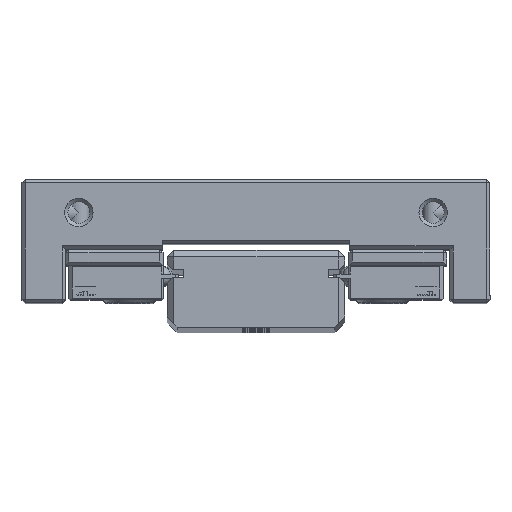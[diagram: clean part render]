
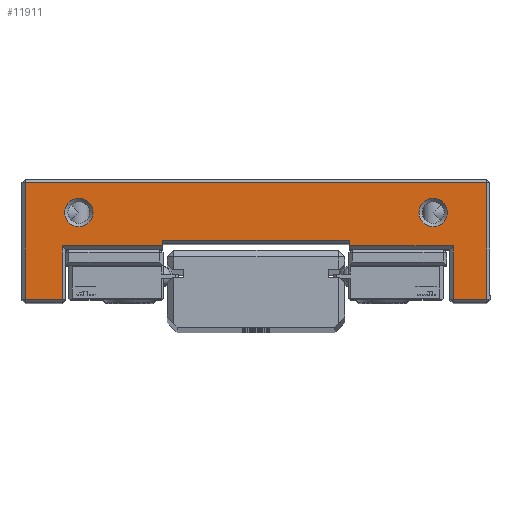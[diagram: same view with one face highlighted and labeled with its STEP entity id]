
A CAD part, top view. The second image highlights one B-rep face of the part: STEP entity #11911.
In plain terms, the highlighted planar face has unit normal (0, 0, 1).
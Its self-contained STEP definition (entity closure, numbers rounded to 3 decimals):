
#323=FACE_BOUND('',#1876,.T.);
#324=FACE_BOUND('',#1877,.T.);
#595=PLANE('',#12778);
#1168=FACE_OUTER_BOUND('',#1875,.T.);
#1875=EDGE_LOOP('',(#8716,#8717,#8718,#8719,#8720,#8721,#8722,#8723,#8724,
#8725,#8726,#8727));
#1876=EDGE_LOOP('',(#8728));
#1877=EDGE_LOOP('',(#8729));
#2792=LINE('',#18351,#3828);
#2793=LINE('',#18354,#3829);
#2800=LINE('',#18368,#3836);
#2807=LINE('',#18381,#3843);
#2821=LINE('',#18411,#3857);
#2828=LINE('',#18445,#3864);
#2829=LINE('',#18447,#3865);
#2830=LINE('',#18449,#3866);
#2831=LINE('',#18451,#3867);
#2832=LINE('',#18453,#3868);
#2833=LINE('',#18455,#3869);
#2834=LINE('',#18456,#3870);
#3828=VECTOR('',#14416,10.);
#3829=VECTOR('',#14419,10.);
#3836=VECTOR('',#14428,10.);
#3843=VECTOR('',#14437,10.);
#3857=VECTOR('',#14463,10.);
#3864=VECTOR('',#14504,10.);
#3865=VECTOR('',#14505,10.);
#3866=VECTOR('',#14506,10.);
#3867=VECTOR('',#14507,10.);
#3868=VECTOR('',#14508,10.);
#3869=VECTOR('',#14509,10.);
#3870=VECTOR('',#14510,10.);
#4621=CIRCLE('',#12776,2.121);
#4623=CIRCLE('',#12779,2.121);
#5297=VERTEX_POINT('',#18347);
#5298=VERTEX_POINT('',#18349);
#5299=VERTEX_POINT('',#18353);
#5304=VERTEX_POINT('',#18365);
#5305=VERTEX_POINT('',#18367);
#5310=VERTEX_POINT('',#18379);
#5329=VERTEX_POINT('',#18439);
#5330=VERTEX_POINT('',#18444);
#5331=VERTEX_POINT('',#18446);
#5332=VERTEX_POINT('',#18448);
#5333=VERTEX_POINT('',#18450);
#5334=VERTEX_POINT('',#18452);
#5335=VERTEX_POINT('',#18454);
#5336=VERTEX_POINT('',#18457);
#6561=EDGE_CURVE('',#5298,#5297,#2792,.T.);
#6562=EDGE_CURVE('',#5299,#5297,#2793,.T.);
#6569=EDGE_CURVE('',#5304,#5305,#2800,.T.);
#6576=EDGE_CURVE('',#5304,#5310,#2807,.T.);
#6592=EDGE_CURVE('',#5299,#5310,#2821,.T.);
#6606=EDGE_CURVE('',#5329,#5329,#4621,.T.);
#6608=EDGE_CURVE('',#5330,#5298,#2828,.T.);
#6609=EDGE_CURVE('',#5331,#5330,#2829,.T.);
#6610=EDGE_CURVE('',#5332,#5331,#2830,.T.);
#6611=EDGE_CURVE('',#5333,#5332,#2831,.T.);
#6612=EDGE_CURVE('',#5334,#5333,#2832,.T.);
#6613=EDGE_CURVE('',#5335,#5334,#2833,.T.);
#6614=EDGE_CURVE('',#5305,#5335,#2834,.T.);
#6615=EDGE_CURVE('',#5336,#5336,#4623,.T.);
#8716=ORIENTED_EDGE('',*,*,#6608,.F.);
#8717=ORIENTED_EDGE('',*,*,#6609,.F.);
#8718=ORIENTED_EDGE('',*,*,#6610,.F.);
#8719=ORIENTED_EDGE('',*,*,#6611,.F.);
#8720=ORIENTED_EDGE('',*,*,#6612,.F.);
#8721=ORIENTED_EDGE('',*,*,#6613,.F.);
#8722=ORIENTED_EDGE('',*,*,#6614,.F.);
#8723=ORIENTED_EDGE('',*,*,#6569,.F.);
#8724=ORIENTED_EDGE('',*,*,#6576,.T.);
#8725=ORIENTED_EDGE('',*,*,#6592,.F.);
#8726=ORIENTED_EDGE('',*,*,#6562,.T.);
#8727=ORIENTED_EDGE('',*,*,#6561,.F.);
#8728=ORIENTED_EDGE('',*,*,#6615,.F.);
#8729=ORIENTED_EDGE('',*,*,#6606,.F.);
#11911=ADVANCED_FACE('',(#1168,#323,#324),#595,.T.);
#12776=AXIS2_PLACEMENT_3D('',#18441,#14498,#14499);
#12778=AXIS2_PLACEMENT_3D('',#18443,#14502,#14503);
#12779=AXIS2_PLACEMENT_3D('',#18458,#14511,#14512);
#14416=DIRECTION('',(-1.,0.,0.));
#14419=DIRECTION('',(0.,-1.,0.));
#14428=DIRECTION('',(-1.,0.,0.));
#14437=DIRECTION('',(0.,1.,0.));
#14463=DIRECTION('',(-1.,0.,0.));
#14498=DIRECTION('center_axis',(0.,0.,
1.));
#14499=DIRECTION('ref_axis',(-1.,0.,0.));
#14502=DIRECTION('center_axis',(0.,0.,
1.));
#14503=DIRECTION('ref_axis',(-1.,0.,0.));
#14504=DIRECTION('',(0.,1.,0.));
#14505=DIRECTION('',(-1.,0.,0.));
#14506=DIRECTION('',(0.,-1.,0.));
#14507=DIRECTION('',(1.,0.,0.));
#14508=DIRECTION('',(0.,1.,0.));
#14509=DIRECTION('',(-1.,0.,0.));
#14510=DIRECTION('',(0.,-1.,0.));
#14511=DIRECTION('center_axis',(0.,0.,
1.));
#14512=DIRECTION('ref_axis',(-1.,0.,0.));
#18347=CARTESIAN_POINT('',(14.,6.75,-110.));
#18349=CARTESIAN_POINT('',(29.5,6.75,-110.));
#18351=CARTESIAN_POINT('',(14.5,6.75,-110.));
#18353=CARTESIAN_POINT('',(14.,7.55,-110.));
#18354=CARTESIAN_POINT('',(14.,7.05,-110.));
#18365=CARTESIAN_POINT('',(-14.,6.75,-110.));
#18367=CARTESIAN_POINT('',(-29.,6.75,-110.));
#18368=CARTESIAN_POINT('',(-7.,6.75,-110.));
#18379=CARTESIAN_POINT('',(-14.,7.55,-110.));
#18381=CARTESIAN_POINT('',(-14.,6.25,-110.));
#18411=CARTESIAN_POINT('',(7.,7.55,-110.));
#18439=CARTESIAN_POINT('',(-24.379,11.75,-110.));
#18441=CARTESIAN_POINT('Origin',(-26.5,11.75,-110.));
#18443=CARTESIAN_POINT('Origin',(0.,7.5,
-110.));
#18444=CARTESIAN_POINT('',(29.5,-1.25,-110.));
#18445=CARTESIAN_POINT('',(29.5,2.875,-110.));
#18446=CARTESIAN_POINT('',(34.5,-1.25,-110.));
#18447=CARTESIAN_POINT('',(17.5,-1.25,-110.));
#18448=CARTESIAN_POINT('',(34.5,16.25,-110.));
#18449=CARTESIAN_POINT('',(34.5,12.125,-110.));
#18450=CARTESIAN_POINT('',(-34.5,16.25,-110.));
#18451=CARTESIAN_POINT('',(-17.5,16.25,-110.));
#18452=CARTESIAN_POINT('',(-34.5,-1.25,-110.));
#18453=CARTESIAN_POINT('',(-34.5,2.875,-110.));
#18454=CARTESIAN_POINT('',(-29.,-1.25,-110.));
#18455=CARTESIAN_POINT('',(-14.25,-1.25,-110.));
#18456=CARTESIAN_POINT('',(-29.,6.875,-110.));
#18457=CARTESIAN_POINT('',(28.621,11.75,-110.));
#18458=CARTESIAN_POINT('Origin',(26.5,11.75,-110.));
